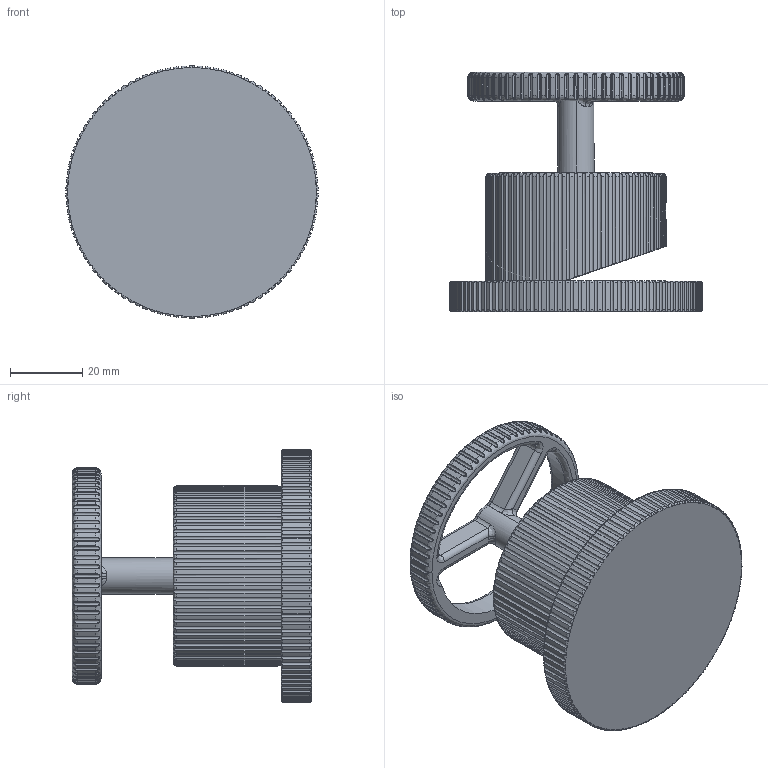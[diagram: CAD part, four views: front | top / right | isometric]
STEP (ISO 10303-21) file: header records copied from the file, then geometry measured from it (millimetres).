
FILE_DESCRIPTION (( 'STEP AP203' ), '1' );
FILE_NAME ('78230610 x architetti.STEP', '2023-10-06T06:05:07', ( '' ), ( '' ), 'SwSTEP 2.0', 'SolidWorks 2020', '' );
FILE_SCHEMA (( 'CONFIG_CONTROL_DESIGN' ));
Products named in the file (1): 78230610 x architetti
Bounding box: 69.99 x 66.5 x 70 mm (x, y, z)
Volume: 95750.9 mm3; surface area: 30878.2 mm2
Topology: 1 solids, 1 shells, 1225 faces, 3329 edges, 2101 vertices
Faces by surface type: cylinder 821, torus 198, bspline 192, plane 14
Entity records: 65974 total; most frequent: CARTESIAN_POINT 36997, ORIENTED_EDGE 6650, DIRECTION 5636, EDGE_CURVE 3325, AXIS2_PLACEMENT_3D 2395, VERTEX_POINT 2101, CIRCLE 1361, EDGE_LOOP 1234
